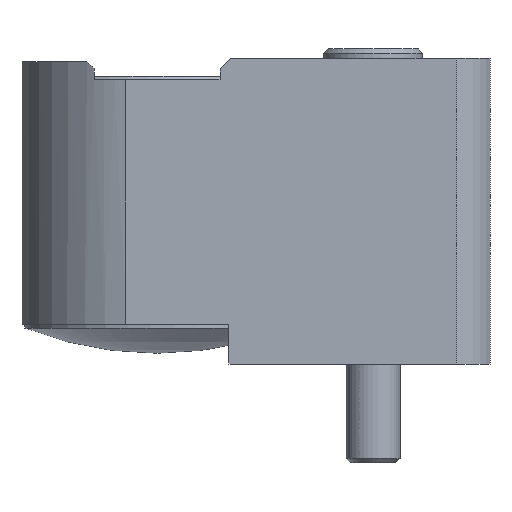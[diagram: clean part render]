
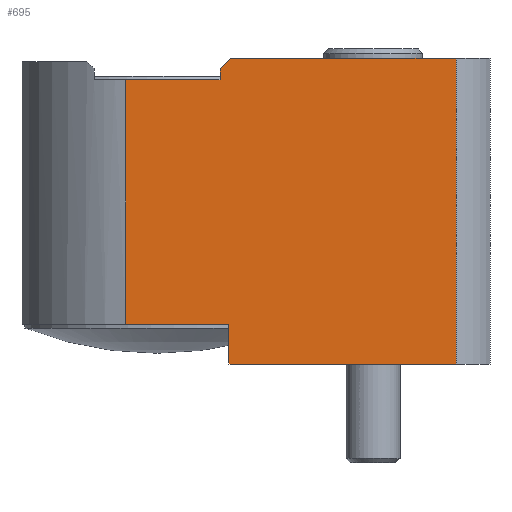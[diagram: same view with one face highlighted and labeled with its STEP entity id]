
A CAD part, left-side view. The second image highlights one B-rep face of the part: STEP entity #695.
In plain terms, the highlighted planar face has unit normal (-1, 0, 0).
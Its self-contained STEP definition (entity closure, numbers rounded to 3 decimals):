
#617=FACE_OUTER_BOUND('',#949,.T.);
#695=ADVANCED_FACE('',(#617),#754,.T.);
#754=PLANE('',#1792);
#949=EDGE_LOOP('',(#1150,#1151,#1152,#1153,#1154,#1155,#1156,#1157,#1158));
#1150=ORIENTED_EDGE('',*,*,#1489,.T.);
#1151=ORIENTED_EDGE('',*,*,#1469,.T.);
#1152=ORIENTED_EDGE('',*,*,#1496,.F.);
#1153=ORIENTED_EDGE('',*,*,#1497,.F.);
#1154=ORIENTED_EDGE('',*,*,#1498,.T.);
#1155=ORIENTED_EDGE('',*,*,#1499,.F.);
#1156=ORIENTED_EDGE('',*,*,#1500,.T.);
#1157=ORIENTED_EDGE('',*,*,#1501,.T.);
#1158=ORIENTED_EDGE('',*,*,#1502,.F.);
#1345=VERTEX_POINT('',#2525);
#1346=VERTEX_POINT('',#2526);
#1361=VERTEX_POINT('',#2567);
#1366=VERTEX_POINT('',#2580);
#1367=VERTEX_POINT('',#2582);
#1368=VERTEX_POINT('',#2584);
#1369=VERTEX_POINT('',#2586);
#1370=VERTEX_POINT('',#2588);
#1371=VERTEX_POINT('',#2590);
#1469=EDGE_CURVE('',#1345,#1346,#1596,.T.);
#1489=EDGE_CURVE('',#1361,#1345,#1612,.T.);
#1496=EDGE_CURVE('',#1366,#1346,#1615,.T.);
#1497=EDGE_CURVE('',#1367,#1366,#1616,.T.);
#1498=EDGE_CURVE('',#1367,#1368,#1617,.T.);
#1499=EDGE_CURVE('',#1369,#1368,#1618,.T.);
#1500=EDGE_CURVE('',#1369,#1370,#1619,.T.);
#1501=EDGE_CURVE('',#1370,#1371,#1620,.T.);
#1502=EDGE_CURVE('',#1361,#1371,#1621,.T.);
#1596=LINE('',#2524,#1681);
#1612=LINE('',#2566,#1697);
#1615=LINE('',#2579,#1700);
#1616=LINE('',#2581,#1701);
#1617=LINE('',#2583,#1702);
#1618=LINE('',#2585,#1703);
#1619=LINE('',#2587,#1704);
#1620=LINE('',#2589,#1705);
#1621=LINE('',#2591,#1706);
#1681=VECTOR('',#1973,1.);
#1697=VECTOR('',#2009,1.);
#1700=VECTOR('',#2022,1.);
#1701=VECTOR('',#2023,1.);
#1702=VECTOR('',#2024,1.);
#1703=VECTOR('',#2025,1.);
#1704=VECTOR('',#2026,1.);
#1705=VECTOR('',#2027,1.);
#1706=VECTOR('',#2028,1.);
#1792=AXIS2_PLACEMENT_3D('',#2592,#2029,#2030);
#1973=DIRECTION('',(0.,0.,-1.));
#2009=DIRECTION('',(0.,-1.,0.));
#2022=DIRECTION('',(0.,1.,0.));
#2023=DIRECTION('',(0.,0.,-1.));
#2024=DIRECTION('',(0.,1.,0.));
#2025=DIRECTION('',(0.,-0.707,0.707));
#2026=DIRECTION('',(0.,0.,-1.));
#2027=DIRECTION('',(0.,1.,0.));
#2028=DIRECTION('',(0.,0.,1.));
#2029=DIRECTION('',(-1.,0.,0.));
#2030=DIRECTION('',(0.,0.,-1.));
#2524=CARTESIAN_POINT('',(-25.293,-143.142,22.722));
#2525=CARTESIAN_POINT('',(-25.293,-143.142,24.922));
#2526=CARTESIAN_POINT('',(-25.293,-143.142,22.722));
#2566=CARTESIAN_POINT('',(-25.293,-149.099,24.922));
#2567=CARTESIAN_POINT('',(-25.293,-137.399,24.922));
#2579=CARTESIAN_POINT('',(-25.293,-146.642,22.722));
#2580=CARTESIAN_POINT('',(-25.293,-155.756,22.722));
#2581=CARTESIAN_POINT('',(-25.293,-155.756,39.722));
#2582=CARTESIAN_POINT('',(-25.293,-155.756,39.722));
#2583=CARTESIAN_POINT('',(-25.293,-146.642,39.722));
#2584=CARTESIAN_POINT('',(-25.293,-143.242,39.722));
#2585=CARTESIAN_POINT('',(-25.293,-142.442,38.922));
#2586=CARTESIAN_POINT('',(-25.293,-142.642,39.122));
#2587=CARTESIAN_POINT('',(-25.293,-142.642,31.222));
#2588=CARTESIAN_POINT('',(-25.293,-142.642,38.522));
#2589=CARTESIAN_POINT('',(-25.293,-148.392,38.522));
#2590=CARTESIAN_POINT('',(-25.293,-137.399,38.522));
#2591=CARTESIAN_POINT('',(-25.293,-137.399,39.722));
#2592=CARTESIAN_POINT('',(-25.293,-157.642,22.722));
